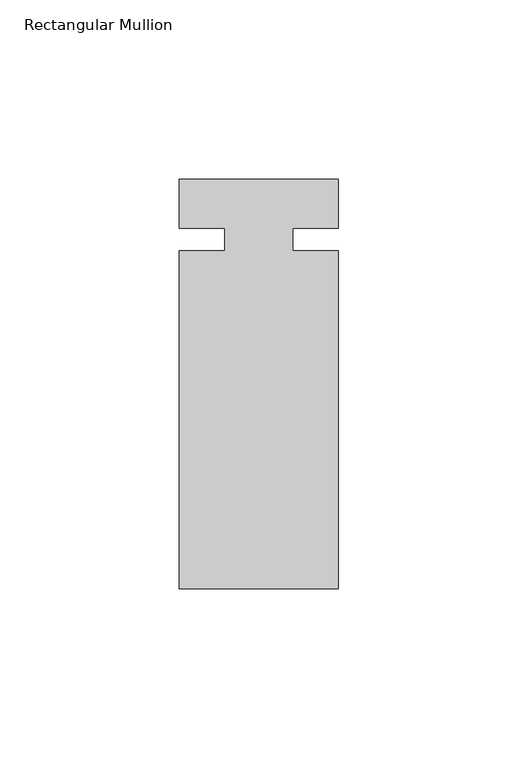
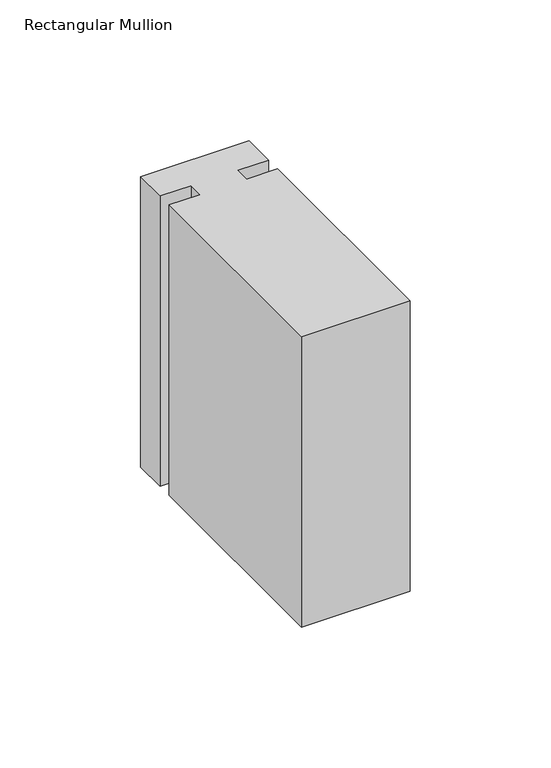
"""IFC4 building model written with IfcOpenShell, lengths in millimetres: member geometry, Rectangular Mullion : Kawneer-TRIFAB_VG_450_BACK_SB_Vertical."""

from ifc_helpers import new_model, si_unit, frame, origin, place, context, project, spatial, polyline, outline, extrude, source, transform, mapped, element, save


def rectangular_mullion_93630891(model_context):
    return source(origin(), model_context, "Body", "SweptSolid", [
        extrude(outline(polyline([(22.225, 16.8532346), (22.225, 3.175), (9.5232296, 3.175), (9.5232296, -3.175), (22.225, -3.175), (22.225, -97.4467654), (-22.225, -97.4467654), (-22.225, -3.175), (-9.525, -3.175), (-9.525, 3.175), (-22.225, 3.175), (-22.225, 16.8532346), (22.225, 16.8532346)])), frame((0.0, 0.0, -125.8405973), z_axis=(0.0, 0.0, 1.0), x_axis=(1.0, 0.0, 0.0)), (0.0, 0.0, 1.0), 125.8405973),
    ])


if __name__ == "__main__":
    model = new_model("IFC4")
    model_context = context("Model", 3, world=origin())
    ifc_project = project(units=[si_unit("LENGTHUNIT", "METRE", prefix="MILLI")], contexts=[model_context])
    site = spatial("IfcSite", under=ifc_project)
    building = spatial("IfcBuilding", under=site)
    placement = place(None, origin())
    rectangular_mullion_shape = rectangular_mullion_93630891(model_context)
    element("IfcMember", 1, ObjectType="Rectangular Mullion : Kawneer-TRIFAB_VG_450_BACK_SB_Vertical", at=placement, inside=building, context=model_context, shape_type="MappedRepresentation", body=[
        mapped(rectangular_mullion_shape, transform((0.0, 0.0, 0.0), x_axis=(1.0, 0.0, 0.0), y_axis=(0.0, 1.0, 0.0), z_axis=(0.0, 0.0, 1.0))),
    ])
    save(model, "model.ifc")
